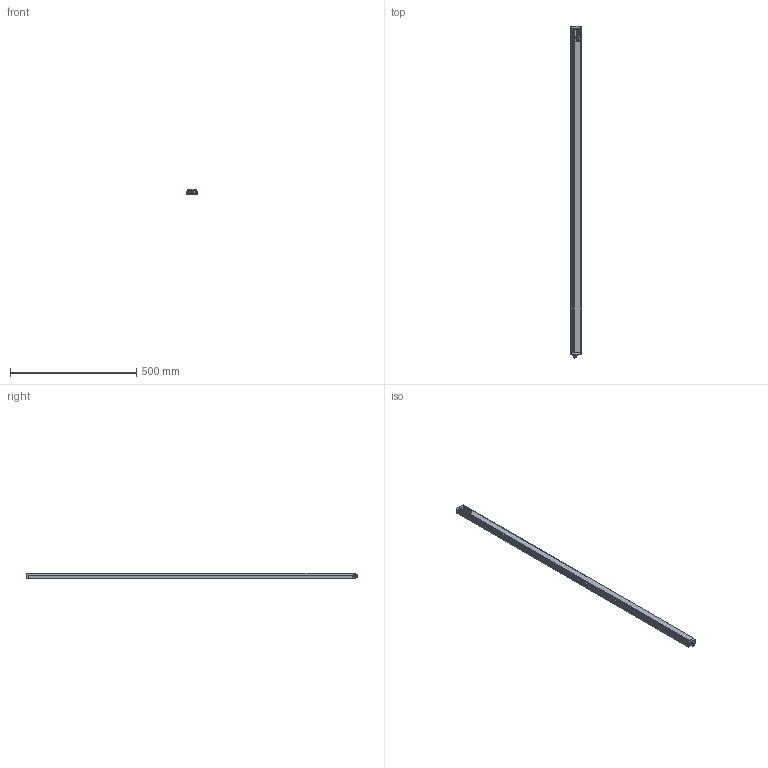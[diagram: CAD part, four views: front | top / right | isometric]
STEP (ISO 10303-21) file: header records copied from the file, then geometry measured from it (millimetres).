
FILE_DESCRIPTION(/* description */ (''),/* implementation_level */ '2;1');
FILE_NAME(/* name */ 'C:\Users\andre\SynologyDrive\Optoscan\Libreria Componenti\00 - Barriere\Barriera sorgente\Argo_1280_TX.stp',/* time_stamp */ '2021-04-22T10:23:21+02:00',/* author */ ('andre'),/* organization */ (''),/* preprocessor_version */ 'ST-DEVELOPER v18',/* originating_system */ 'Autodesk Inventor 2020',/* authorisation */ '');
FILE_SCHEMA (('AUTOMOTIVE_DESIGN { 1 0 10303 214 3 1 1 }'));
Length unit declared in the file: millimetre
Products named in the file (1): Argo_1280_TX
Bounding box: 40.5 x 1313.3 x 20.75 mm (x, y, z)
Volume: 260610.1 mm3; surface area: 340993.2 mm2
Topology: 1 solids, 1 shells, 696 faces, 1911 edges, 1225 vertices
Faces by surface type: plane 321, cylinder 195, bspline 94, torus 72, cone 8, sphere 6
Full cylindrical faces by diameter (mm): 1 x4, 2.459 x4, 2.5 x4, 3 x4, 3.5 x4, 5.5 x4, 8 x1, 10.5 x2, 11.75 x9, 15.7 x1, 17.5 x1
Entity records: 30770 total; most frequent: CARTESIAN_POINT 12670, ORIENTED_EDGE 3806, DIRECTION 3415, EDGE_CURVE 1903, VERTEX_POINT 1225, AXIS2_PLACEMENT_3D 1193, LINE 1029, VECTOR 1029
